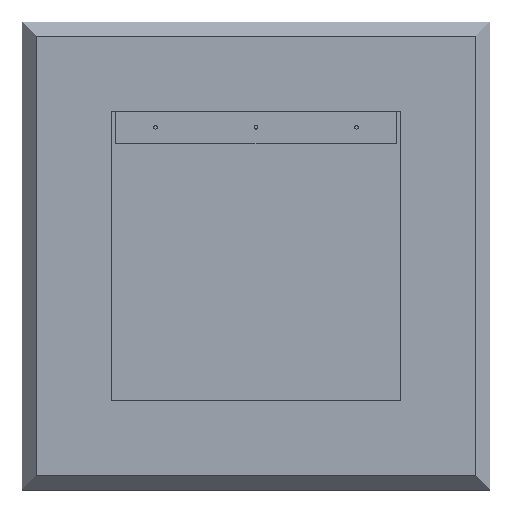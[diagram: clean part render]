
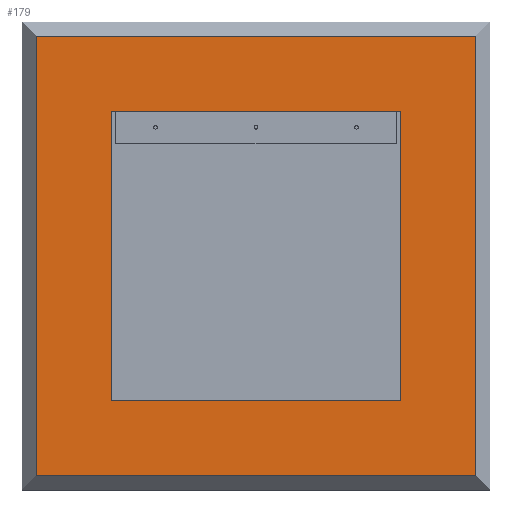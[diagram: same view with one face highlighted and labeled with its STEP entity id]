
A CAD part, top view. The second image highlights one B-rep face of the part: STEP entity #179.
In plain terms, the highlighted planar face has unit normal (0, 0, 1).
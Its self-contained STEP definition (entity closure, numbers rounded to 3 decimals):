
#5 = CARTESIAN_POINT ( 'NONE',  ( -234., 234., 19. ) ) ;
#80 = CARTESIAN_POINT ( 'NONE',  ( 234., -234., 19. ) ) ;
#89 = EDGE_CURVE ( 'NONE', #590, #490, #527, .T. ) ;
#126 = DIRECTION ( 'NONE',  ( 0., -1., 0. ) ) ;
#162 = ORIENTED_EDGE ( 'NONE', *, *, #504, .T. ) ;
#179 = ADVANCED_FACE ( 'NONE', ( #876, #895 ), #769, .T. ) ;
#209 = CARTESIAN_POINT ( 'NONE',  ( -234., -234., 19. ) ) ;
#223 = LINE ( 'NONE', #649, #1313 ) ;
#242 = LINE ( 'NONE', #650, #404 ) ;
#249 = EDGE_CURVE ( 'NONE', #579, #574, #223, .T. ) ;
#260 = VERTEX_POINT ( 'NONE', #5 ) ;
#287 = DIRECTION ( 'NONE',  ( 1., 0., 0. ) ) ;
#303 = CARTESIAN_POINT ( 'NONE',  ( -234., -249., 19. ) ) ;
#312 = CARTESIAN_POINT ( 'NONE',  ( -154., 154., 19. ) ) ;
#314 = AXIS2_PLACEMENT_3D ( 'NONE', #639, #1324, #532 ) ;
#316 = LINE ( 'NONE', #1092, #1201 ) ;
#344 = VERTEX_POINT ( 'NONE', #1156 ) ;
#348 = ORIENTED_EDGE ( 'NONE', *, *, #89, .T. ) ;
#403 = CARTESIAN_POINT ( 'NONE',  ( 234., 234., 19. ) ) ;
#404 = VECTOR ( 'NONE', #454, 1000. ) ;
#409 = ORIENTED_EDGE ( 'NONE', *, *, #926, .T. ) ;
#454 = DIRECTION ( 'NONE',  ( 1., 0., 0. ) ) ;
#487 = DIRECTION ( 'NONE',  ( 0., 1., 0. ) ) ;
#490 = VERTEX_POINT ( 'NONE', #80 ) ;
#504 = EDGE_CURVE ( 'NONE', #260, #590, #509, .T. ) ;
#509 = LINE ( 'NONE', #303, #1150 ) ;
#513 = EDGE_CURVE ( 'NONE', #344, #974, #1204, .T. ) ;
#527 = LINE ( 'NONE', #1409, #823 ) ;
#529 = CARTESIAN_POINT ( 'NONE',  ( 154., -154., 19. ) ) ;
#532 = DIRECTION ( 'NONE',  ( 1., 0., 0. ) ) ;
#548 = CARTESIAN_POINT ( 'NONE',  ( -154., -154., 19. ) ) ;
#551 = CARTESIAN_POINT ( 'NONE',  ( 154., 154., 19. ) ) ;
#555 = ORIENTED_EDGE ( 'NONE', *, *, #744, .T. ) ;
#574 = VERTEX_POINT ( 'NONE', #548 ) ;
#579 = VERTEX_POINT ( 'NONE', #312 ) ;
#590 = VERTEX_POINT ( 'NONE', #209 ) ;
#603 = ORIENTED_EDGE ( 'NONE', *, *, #249, .F. ) ;
#604 = ORIENTED_EDGE ( 'NONE', *, *, #610, .F. ) ;
#610 = EDGE_CURVE ( 'NONE', #974, #579, #316, .T. ) ;
#639 = CARTESIAN_POINT ( 'NONE',  ( 0., 0., 19. ) ) ;
#649 = CARTESIAN_POINT ( 'NONE',  ( -154., 154., 19. ) ) ;
#650 = CARTESIAN_POINT ( 'NONE',  ( -154., -154., 19. ) ) ;
#654 = ORIENTED_EDGE ( 'NONE', *, *, #513, .F. ) ;
#677 = CARTESIAN_POINT ( 'NONE',  ( -249., 234., 19. ) ) ;
#708 = CARTESIAN_POINT ( 'NONE',  ( 234., 249., 19. ) ) ;
#744 = EDGE_CURVE ( 'NONE', #1269, #260, #801, .T. ) ;
#759 = DIRECTION ( 'NONE',  ( 0., 1., 0. ) ) ;
#769 = PLANE ( 'NONE',  #314 ) ;
#801 = LINE ( 'NONE', #677, #1129 ) ;
#823 = VECTOR ( 'NONE', #287, 1000. ) ;
#867 = VECTOR ( 'NONE', #487, 1000. ) ;
#874 = DIRECTION ( 'NONE',  ( -1., 0., 0. ) ) ;
#876 = FACE_OUTER_BOUND ( 'NONE', #915, .T. ) ;
#895 = FACE_BOUND ( 'NONE', #1065, .T. ) ;
#903 = DIRECTION ( 'NONE',  ( -1., 0., 0. ) ) ;
#915 = EDGE_LOOP ( 'NONE', ( #409, #555, #162, #348 ) ) ;
#926 = EDGE_CURVE ( 'NONE', #490, #1269, #1171, .T. ) ;
#932 = ORIENTED_EDGE ( 'NONE', *, *, #1363, .F. ) ;
#974 = VERTEX_POINT ( 'NONE', #551 ) ;
#975 = VECTOR ( 'NONE', #759, 1000. ) ;
#985 = DIRECTION ( 'NONE',  ( 0., -1., 0. ) ) ;
#1065 = EDGE_LOOP ( 'NONE', ( #932, #603, #604, #654 ) ) ;
#1092 = CARTESIAN_POINT ( 'NONE',  ( 154., 154., 19. ) ) ;
#1129 = VECTOR ( 'NONE', #903, 1000. ) ;
#1150 = VECTOR ( 'NONE', #126, 1000. ) ;
#1156 = CARTESIAN_POINT ( 'NONE',  ( 154., -154., 19. ) ) ;
#1171 = LINE ( 'NONE', #708, #867 ) ;
#1201 = VECTOR ( 'NONE', #874, 1000. ) ;
#1204 = LINE ( 'NONE', #529, #975 ) ;
#1269 = VERTEX_POINT ( 'NONE', #403 ) ;
#1313 = VECTOR ( 'NONE', #985, 1000. ) ;
#1324 = DIRECTION ( 'NONE',  ( 0., 0., 1. ) ) ;
#1363 = EDGE_CURVE ( 'NONE', #574, #344, #242, .T. ) ;
#1409 = CARTESIAN_POINT ( 'NONE',  ( 249., -234., 19. ) ) ;
